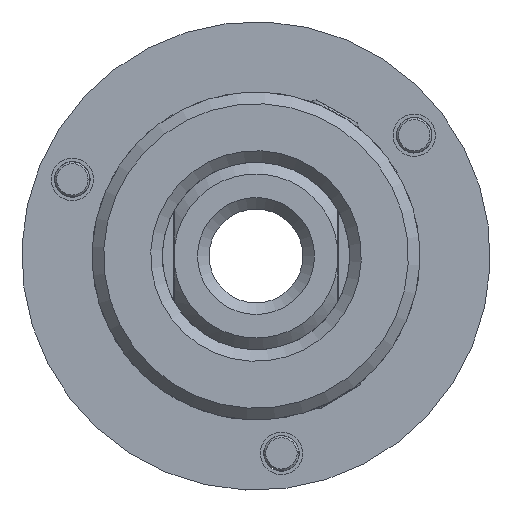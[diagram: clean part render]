
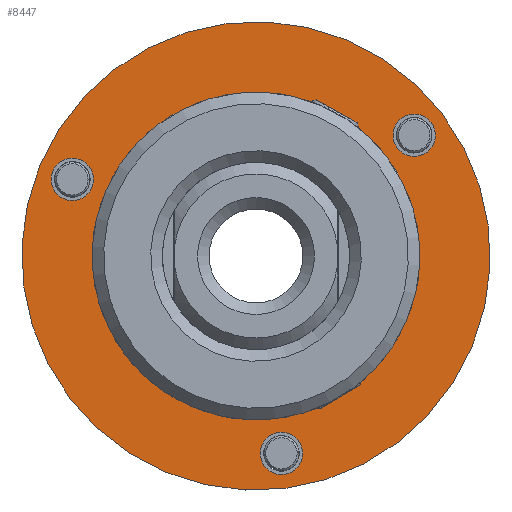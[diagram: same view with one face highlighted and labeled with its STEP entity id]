
A CAD part, front view. The second image highlights one B-rep face of the part: STEP entity #8447.
In plain terms, the highlighted planar face has unit normal (0, -1, 0).
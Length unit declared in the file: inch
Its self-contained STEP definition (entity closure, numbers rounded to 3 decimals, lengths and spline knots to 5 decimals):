
#8312=CARTESIAN_POINT('',(-0.40336,-0.01,0.2655));
#8313=VERTEX_POINT('',#8312);
#8314=CARTESIAN_POINT('',(-0.45986,-0.01,0.2655));
#8315=DIRECTION('',(0.0,1.0,0.0));
#8316=DIRECTION('',(-1.0,0.0,0.0));
#8317=AXIS2_PLACEMENT_3D('',#8314,#8315,#8316);
#8318=CIRCLE('',#8317,0.0565);
#8319=EDGE_CURVE('',#8313,#8313,#8318,.T.);
#8340=CARTESIAN_POINT('',(0.51636,-0.01,0.2655));
#8341=VERTEX_POINT('',#8340);
#8342=CARTESIAN_POINT('',(0.45986,-0.01,0.2655));
#8343=DIRECTION('',(0.0,1.0,0.0));
#8344=DIRECTION('',(-1.0,0.0,0.0));
#8345=AXIS2_PLACEMENT_3D('',#8342,#8343,#8344);
#8346=CIRCLE('',#8345,0.0565);
#8347=EDGE_CURVE('',#8341,#8341,#8346,.T.);
#8368=CARTESIAN_POINT('',(0.0565,-0.01,-0.531));
#8369=VERTEX_POINT('',#8368);
#8370=CARTESIAN_POINT('',(0.,-0.01,-0.531));
#8371=DIRECTION('',(0.0,1.0,0.0));
#8372=DIRECTION('',(-1.0,0.0,0.0));
#8373=AXIS2_PLACEMENT_3D('',#8370,#8371,#8372);
#8374=CIRCLE('',#8373,0.0565);
#8375=EDGE_CURVE('',#8369,#8369,#8374,.T.);
#8396=CARTESIAN_POINT('',(0.625,-0.01,0.0));
#8397=VERTEX_POINT('',#8396);
#8398=CARTESIAN_POINT('',(0.,-0.01,0.0));
#8399=DIRECTION('',(0.0,-1.0,0.0));
#8400=DIRECTION('',(1.0,0.0,0.0));
#8401=AXIS2_PLACEMENT_3D('',#8398,#8399,#8400);
#8402=CIRCLE('',#8401,0.625);
#8403=EDGE_CURVE('',#8397,#8397,#8402,.T.);
#8419=CARTESIAN_POINT('',(0.44525,-0.01,0.0));
#8420=DIRECTION('',(0.0,-1.0,0.0));
#8421=DIRECTION('',(0.0,0.0,-1.0));
#8422=AXIS2_PLACEMENT_3D('',#8419,#8420,#8421);
#8423=PLANE('',#8422);
#8424=ORIENTED_EDGE('',*,*,#8403,.T.);
#8425=EDGE_LOOP('',(#8424));
#8426=FACE_OUTER_BOUND('',#8425,.T.);
#8427=ORIENTED_EDGE('',*,*,#8319,.T.);
#8428=EDGE_LOOP('',(#8427));
#8429=FACE_BOUND('',#8428,.T.);
#8430=ORIENTED_EDGE('',*,*,#8347,.T.);
#8431=EDGE_LOOP('',(#8430));
#8432=FACE_BOUND('',#8431,.T.);
#8433=ORIENTED_EDGE('',*,*,#8375,.T.);
#8434=EDGE_LOOP('',(#8433));
#8435=FACE_BOUND('',#8434,.T.);
#8436=CARTESIAN_POINT('',(0.2655,-0.01,0.0));
#8437=VERTEX_POINT('',#8436);
#8438=CARTESIAN_POINT('',(0.,-0.01,0.0));
#8439=DIRECTION('',(0.0,-1.0,0.0));
#8440=DIRECTION('',(1.0,0.0,0.0));
#8441=AXIS2_PLACEMENT_3D('',#8438,#8439,#8440);
#8442=CIRCLE('',#8441,0.2655);
#8443=EDGE_CURVE('',#8437,#8437,#8442,.T.);
#8444=ORIENTED_EDGE('',*,*,#8443,.F.);
#8445=EDGE_LOOP('',(#8444));
#8446=FACE_BOUND('',#8445,.T.);
#8447=ADVANCED_FACE('',(#8426,#8429,#8432,#8435,#8446),#8423,.T.);
